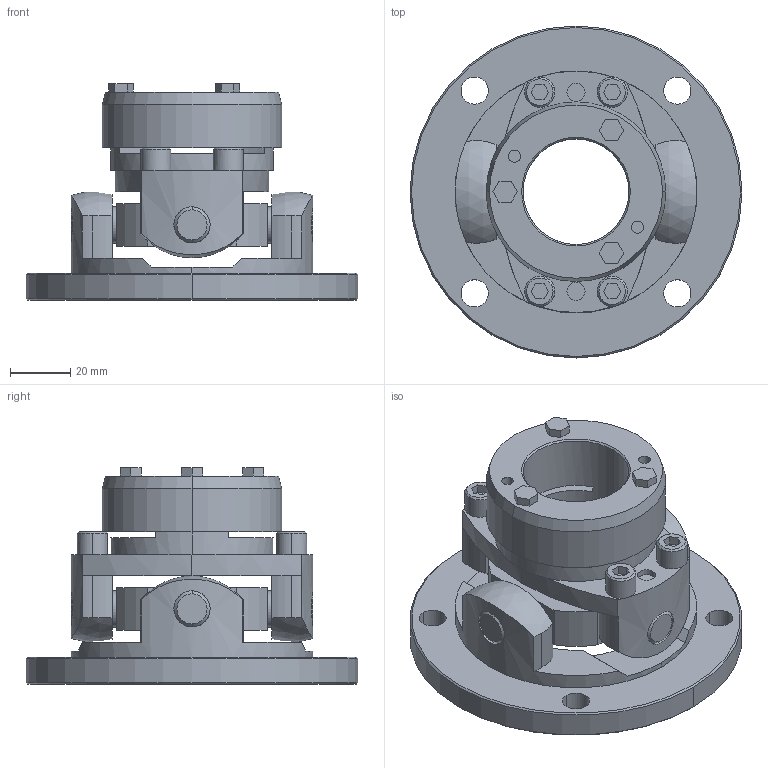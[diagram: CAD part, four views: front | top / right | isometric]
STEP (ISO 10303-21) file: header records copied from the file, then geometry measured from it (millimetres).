
FILE_DESCRIPTION((''),'2;1');
FILE_NAME('UCNF-80T7-35.stp','2011-09-17T16:36:35',(''),(''),'AutoCAD STEP 2000i','AutoCAD 2000i',', , ');
FILE_SCHEMA(('CONFIG_CONTROL_DESIGN'));
Length unit declared in the file: millimetre
Products named in the file (13): UCNF-80T7-35; 忣兜1; UCN80T7-T035; UCN80T7-T032; UCN80T7-T030; UCN80T7-T028; UCN80T7-T024; UCN80T7-T022; UCN80T7-T019; UCNF-8002; UCN80T7-T017-1; UCN80T7-T017; UCN80-SEN
Assembly tree (12 placements, depth 2):
  UCNF-80T7-35
    忣兜1
    UCN80T7-T035
    UCN80T7-T032
    UCN80T7-T030
    UCN80T7-T028
    UCN80T7-T024
    UCN80T7-T022
    UCN80T7-T019
    UCNF-8002
    UCN80T7-T017-1
    UCN80T7-T017
    UCN80-SEN
Bounding box: 110 x 110 x 71.8 mm (x, y, z)
Volume: 186276 mm3; surface area: 55129.8 mm2
Topology: 1 solids, 1 shells, 278 faces, 696 edges, 452 vertices
Faces by surface type: plane 132, cylinder 104, cone 38, sphere 4
Entity records: 9053 total; most frequent: CARTESIAN_POINT 1843, DIRECTION 1568, ORIENTED_EDGE 1392, EDGE_CURVE 696, AXIS2_PLACEMENT_3D 597, VERTEX_POINT 452, VECTOR 374, LINE 374
